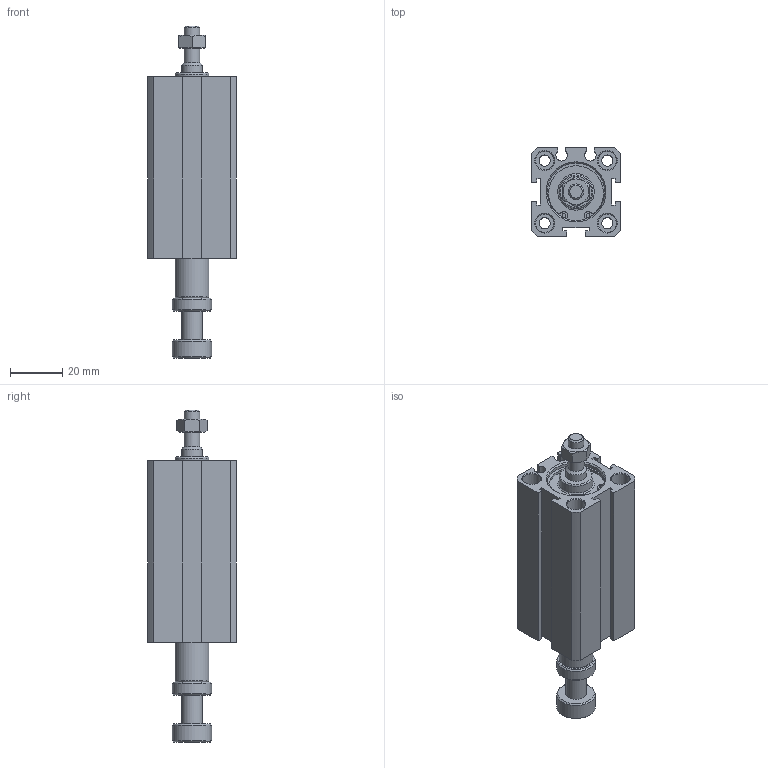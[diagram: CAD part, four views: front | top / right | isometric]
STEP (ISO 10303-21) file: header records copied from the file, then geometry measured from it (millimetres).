
FILE_DESCRIPTION((''),'2;1');
FILE_NAME('I:\3D電子目錄\氣缸\JDAR\JDAR-B\JDAR20-B\JDAR20x50-B.stp','2007-03-14T13:17:23',('662F206'),(''),'Autodesk Inventor 11','Autodesk Inventor 11','');
FILE_SCHEMA(('AUTOMOTIVE_DESIGN { 1 0 10303 214 1 1 1 1 }'));
Length unit declared in the file: millimetre
Products named in the file (3): JDAR20-B; R 形環 23
Assembly tree (3 placements, depth 2):
  JDAR20-B
    JDAR20-B
    R 形環 23  x2
Bounding box: 34 x 34 x 127.3 mm (x, y, z)
Volume: 70657.2 mm3; surface area: 23263.3 mm2
Topology: 3 solids, 3 shells, 152 faces, 341 edges, 221 vertices
Faces by surface type: plane 74, cylinder 50, cone 20, bspline 6, torus 2
Full cylindrical faces by diameter (mm): 1.5 x6, 4.3 x4, 6 x2, 7 x8, 8 x2, 13 x2, 15 x2, 22 x4, 23.2 x2
Entity records: 3749 total; most frequent: CARTESIAN_POINT 742, DIRECTION 628, ORIENTED_EDGE 498, AXIS2_PLACEMENT_3D 251, EDGE_CURVE 249, EDGE_LOOP 234, VERTEX_POINT 195, FACE_OUTER_BOUND 140
